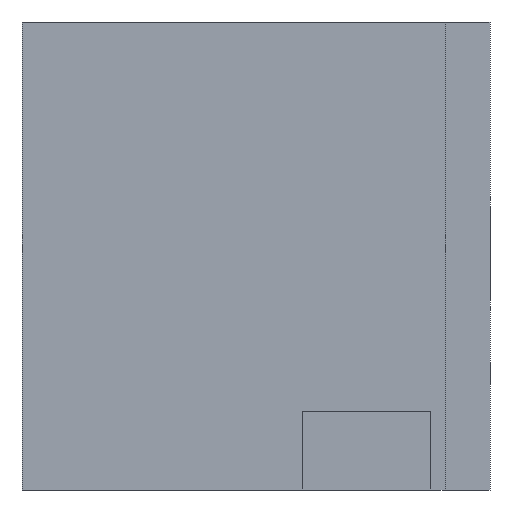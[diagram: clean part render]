
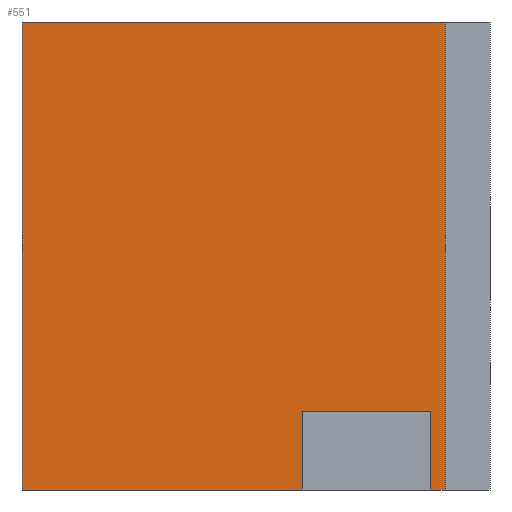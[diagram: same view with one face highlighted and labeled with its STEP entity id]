
A CAD part, left-side view. The second image highlights one B-rep face of the part: STEP entity #551.
In plain terms, the highlighted planar face has unit normal (-1, 0, 0).
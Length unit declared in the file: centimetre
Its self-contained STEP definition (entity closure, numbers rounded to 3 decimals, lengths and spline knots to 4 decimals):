
#32 = CARTESIAN_POINT ( 'NONE',  ( 0., 1000., 0. ) ) ;
#46 = DIRECTION ( 'NONE',  ( 0., -1., 0. ) ) ;
#48 = VECTOR ( 'NONE', #690, 100. ) ;
#51 = CARTESIAN_POINT ( 'NONE',  ( 0., 1000., 1000. ) ) ;
#67 = VECTOR ( 'NONE', #46, 100. ) ;
#84 = VERTEX_POINT ( 'NONE', #249 ) ;
#89 = LINE ( 'NONE', #497, #454 ) ;
#101 = VERTEX_POINT ( 'NONE', #125 ) ;
#107 = CARTESIAN_POINT ( 'NONE',  ( 0., 1000., 1000. ) ) ;
#113 = CARTESIAN_POINT ( 'NONE',  ( 0., 400.8937, 0. ) ) ;
#125 = CARTESIAN_POINT ( 'NONE',  ( 0., 400.8937, 0. ) ) ;
#153 = ORIENTED_EDGE ( 'NONE', *, *, #810, .T. ) ;
#158 = EDGE_CURVE ( 'NONE', #320, #101, #521, .T. ) ;
#162 = ORIENTED_EDGE ( 'NONE', *, *, #538, .F. ) ;
#166 = PLANE ( 'NONE',  #327 ) ;
#170 = LINE ( 'NONE', #107, #816 ) ;
#218 = VECTOR ( 'NONE', #499, 100. ) ;
#248 = CARTESIAN_POINT ( 'NONE',  ( 0., 127.2236, 0. ) ) ;
#249 = CARTESIAN_POINT ( 'NONE',  ( 0., 1000., 0. ) ) ;
#254 = EDGE_LOOP ( 'NONE', ( #416, #526, #477, #162, #153, #325, #432, #398 ) ) ;
#277 = EDGE_CURVE ( 'NONE', #473, #320, #89, .T. ) ;
#284 = CARTESIAN_POINT ( 'NONE',  ( 0., 95.7359, 0. ) ) ;
#288 = VERTEX_POINT ( 'NONE', #284 ) ;
#299 = CARTESIAN_POINT ( 'NONE',  ( 0., 1000., 0. ) ) ;
#304 = DIRECTION ( 'NONE',  ( 0., -1., 0. ) ) ;
#320 = VERTEX_POINT ( 'NONE', #814 ) ;
#325 = ORIENTED_EDGE ( 'NONE', *, *, #436, .F. ) ;
#327 = AXIS2_PLACEMENT_3D ( 'NONE', #580, #515, #431 ) ;
#364 = CARTESIAN_POINT ( 'NONE',  ( 0., 127.2236, 0. ) ) ;
#369 = DIRECTION ( 'NONE',  ( 0., -1., 0. ) ) ;
#374 = VECTOR ( 'NONE', #513, 100. ) ;
#382 = VERTEX_POINT ( 'NONE', #837 ) ;
#398 = ORIENTED_EDGE ( 'NONE', *, *, #534, .T. ) ;
#414 = CARTESIAN_POINT ( 'NONE',  ( 0., 95.7359, 1000. ) ) ;
#416 = ORIENTED_EDGE ( 'NONE', *, *, #767, .T. ) ;
#418 = LINE ( 'NONE', #32, #629 ) ;
#420 = DIRECTION ( 'NONE',  ( 0., 1., 0. ) ) ;
#431 = DIRECTION ( 'NONE',  ( 0., 0., -1. ) ) ;
#432 = ORIENTED_EDGE ( 'NONE', *, *, #566, .F. ) ;
#436 = EDGE_CURVE ( 'NONE', #555, #288, #674, .T. ) ;
#454 = VECTOR ( 'NONE', #420, 100. ) ;
#473 = VERTEX_POINT ( 'NONE', #558 ) ;
#477 = ORIENTED_EDGE ( 'NONE', *, *, #277, .F. ) ;
#494 = LINE ( 'NONE', #364, #218 ) ;
#497 = CARTESIAN_POINT ( 'NONE',  ( 0., 127.2236, 167.0621 ) ) ;
#499 = DIRECTION ( 'NONE',  ( 0., 0., 1. ) ) ;
#513 = DIRECTION ( 'NONE',  ( 0., 0., -1. ) ) ;
#515 = DIRECTION ( 'NONE',  ( 1., 0., 0. ) ) ;
#521 = LINE ( 'NONE', #113, #374 ) ;
#526 = ORIENTED_EDGE ( 'NONE', *, *, #158, .F. ) ;
#534 = EDGE_CURVE ( 'NONE', #382, #84, #646, .T. ) ;
#538 = EDGE_CURVE ( 'NONE', #597, #473, #494, .T. ) ;
#551 = ADVANCED_FACE ( 'NONE', ( #770 ), #166, .F. ) ;
#555 = VERTEX_POINT ( 'NONE', #578 ) ;
#557 = LINE ( 'NONE', #299, #67 ) ;
#558 = CARTESIAN_POINT ( 'NONE',  ( 0., 127.2236, 167.0621 ) ) ;
#566 = EDGE_CURVE ( 'NONE', #382, #555, #170, .T. ) ;
#578 = CARTESIAN_POINT ( 'NONE',  ( 0., 95.7359, 1000. ) ) ;
#580 = CARTESIAN_POINT ( 'NONE',  ( 0., 1000., 1000. ) ) ;
#595 = VECTOR ( 'NONE', #636, 100. ) ;
#597 = VERTEX_POINT ( 'NONE', #248 ) ;
#629 = VECTOR ( 'NONE', #304, 100. ) ;
#636 = DIRECTION ( 'NONE',  ( 0., 0., -1. ) ) ;
#646 = LINE ( 'NONE', #51, #595 ) ;
#674 = LINE ( 'NONE', #414, #48 ) ;
#690 = DIRECTION ( 'NONE',  ( 0., 0., -1. ) ) ;
#767 = EDGE_CURVE ( 'NONE', #84, #101, #557, .T. ) ;
#770 = FACE_OUTER_BOUND ( 'NONE', #254, .T. ) ;
#810 = EDGE_CURVE ( 'NONE', #597, #288, #418, .T. ) ;
#814 = CARTESIAN_POINT ( 'NONE',  ( 0., 400.8937, 167.0621 ) ) ;
#816 = VECTOR ( 'NONE', #369, 100. ) ;
#837 = CARTESIAN_POINT ( 'NONE',  ( 0., 1000., 1000. ) ) ;
